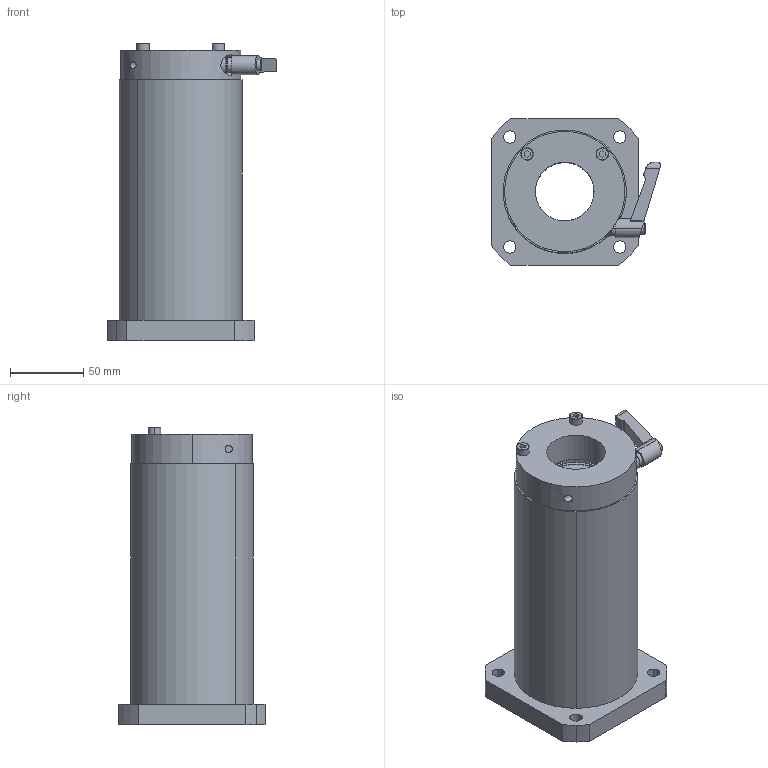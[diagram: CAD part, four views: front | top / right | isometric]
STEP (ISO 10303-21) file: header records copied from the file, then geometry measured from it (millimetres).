
FILE_DESCRIPTION (( 'STEP AP214' ), '1' );
FILE_NAME ('LFWK40-C.STEP', '2023-06-27T02:01:46', ( '' ), ( '' ), 'SwSTEP 2.0', 'SolidWorks 2019', '' );
FILE_SCHEMA (( 'AUTOMOTIVE_DESIGN' ));
Length unit declared in the file: millimetre
Products named in the file (3): LFWK40; LFWK40-C; “ÁSCK4020CO-S5.5
Assembly tree (2 placements, depth 2):
  LFWK40-C
    LFWK40
    “ÁSCK4020CO-S5.5
Bounding box: 115.4 x 100 x 203 mm (x, y, z)
Volume: 873563.8 mm3; surface area: 123619.6 mm2
Topology: 4 solids, 9 shells, 196 faces, 482 edges, 306 vertices
Faces by surface type: cylinder 79, plane 59, bspline 39, cone 11, torus 8
Entity records: 8595 total; most frequent: CARTESIAN_POINT 1877, DIRECTION 1019, ORIENTED_EDGE 964, EDGE_CURVE 482, AXIS2_PLACEMENT_3D 418, VERTEX_POINT 306, CIRCLE 256, EDGE_LOOP 238
